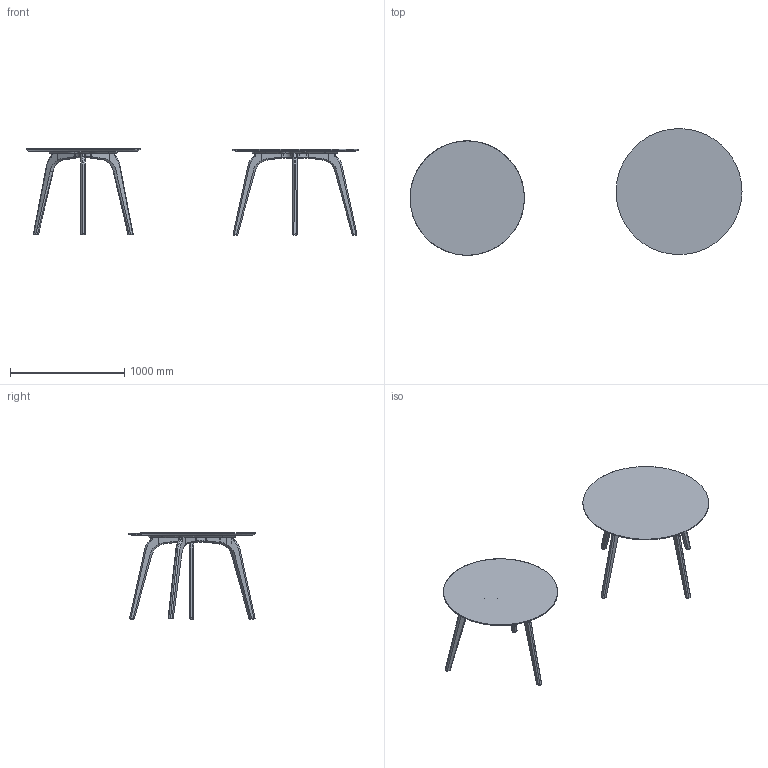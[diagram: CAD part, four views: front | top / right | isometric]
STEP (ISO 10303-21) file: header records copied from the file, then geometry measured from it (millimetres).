
FILE_DESCRIPTION(/* description */ (''),/* implementation_level */ '2;1');
FILE_NAME(/* name */ 'Proces Round dinind tables STEP',/* time_stamp */ '2023-02-24T12:15:55+01:00',/* author */ (''),/* organization */ (''),/* preprocessor_version */ 'ST-DEVELOPER v16.5',/* originating_system */ '',/* authorisation */ '');
FILE_SCHEMA (('AUTOMOTIVE_DESIGN'));
Length unit declared in the file: millimetre
Products named in the file (1): Document
Bounding box: 2901.37 x 1105.15 x 753.46 mm (x, y, z)
Volume: 21252145.8 mm3; surface area: 8403208.7 mm2
Topology: 4 solids, 28 shells, 868 faces, 2388 edges, 1555 vertices
Faces by surface type: bspline 607, plane 261
Entity records: 31877 total; most frequent: CARTESIAN_POINT 17897, ORIENTED_EDGE 4644, EDGE_CURVE 2387, VERTEX_POINT 1554, B_SPLINE_CURVE_WITH_KNOTS 1433, EDGE_LOOP 935, ADVANCED_FACE 868, FACE_OUTER_BOUND 868
